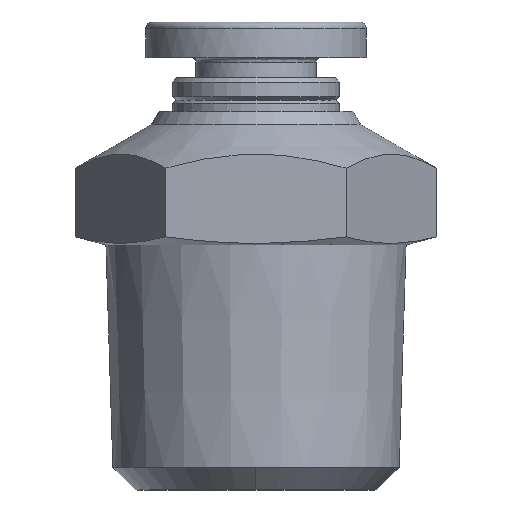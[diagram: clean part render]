
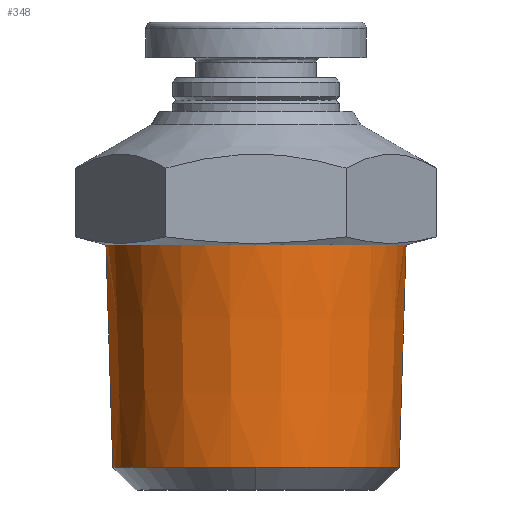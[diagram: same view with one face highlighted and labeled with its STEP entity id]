
A CAD part, front view. The second image highlights one B-rep face of the part: STEP entity #348.
In plain terms, the highlighted conical face has half-angle 1.79 degrees and reference radius 6.734 mm.
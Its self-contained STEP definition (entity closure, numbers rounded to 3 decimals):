
#70 = CONICAL_SURFACE ( 'NONE', #941, 6.734, 0.031 ) ;
#132 = LINE ( 'NONE', #1029, #1570 ) ;
#176 = EDGE_LOOP ( 'NONE', ( #1380, #1479, #1191, #247, #1359 ) ) ;
#247 = ORIENTED_EDGE ( 'NONE', *, *, #771, .T. ) ;
#290 = LINE ( 'NONE', #636, #1250 ) ;
#335 = VERTEX_POINT ( 'NONE', #1487 ) ;
#348 = ADVANCED_FACE ( '13', ( #976 ), #70, .T. ) ;
#377 = EDGE_CURVE ( 'NONE', #1061, #1427, #667, .T. ) ;
#446 = CARTESIAN_POINT ( 'NONE',  ( 0., -6.423, 1.023 ) ) ;
#504 = CARTESIAN_POINT ( 'NONE',  ( -6.734, 0., 11. ) ) ;
#579 = CARTESIAN_POINT ( 'NONE',  ( 6.423, 0., 1.023 ) ) ;
#632 = EDGE_CURVE ( 'NONE', #1427, #1157, #1355, .T. ) ;
#634 = EDGE_CURVE ( 'NONE', #335, #1306, #1346, .T. ) ;
#636 = CARTESIAN_POINT ( 'NONE',  ( -6.734, 0., 11. ) ) ;
#639 = DIRECTION ( 'NONE',  ( -0.997, 0.082, 0. ) ) ;
#646 = DIRECTION ( 'NONE',  ( 0., 0., 1. ) ) ;
#650 = CARTESIAN_POINT ( 'NONE',  ( 0., 0., 1.023 ) ) ;
#656 = DIRECTION ( 'NONE',  ( -0.031, 0., 1. ) ) ;
#667 = CIRCLE ( 'NONE', #1017, 6.423 ) ;
#679 = AXIS2_PLACEMENT_3D ( 'NONE', #1452, #1449, #1445 ) ;
#691 = AXIS2_PLACEMENT_3D ( 'NONE', #1468, #1466, #1461 ) ;
#712 = CARTESIAN_POINT ( 'NONE',  ( -6.423, 0., 1.023 ) ) ;
#771 = EDGE_CURVE ( 'NONE', #1157, #335, #132, .T. ) ;
#941 = AXIS2_PLACEMENT_3D ( 'NONE', #973, #952, #1365 ) ;
#952 = DIRECTION ( 'NONE',  ( 0., 0., 1. ) ) ;
#973 = CARTESIAN_POINT ( 'NONE',  ( 0., 0., 11. ) ) ;
#976 = FACE_OUTER_BOUND ( 'NONE', #176, .T. ) ;
#1017 = AXIS2_PLACEMENT_3D ( 'NONE', #650, #646, #639 ) ;
#1027 = DIRECTION ( 'NONE',  ( 0.031, 0., 1. ) ) ;
#1029 = CARTESIAN_POINT ( 'NONE',  ( 6.734, 0., 11. ) ) ;
#1061 = VERTEX_POINT ( 'NONE', #712 ) ;
#1115 = EDGE_CURVE ( 'NONE', #1061, #1306, #290, .T. ) ;
#1157 = VERTEX_POINT ( 'NONE', #579 ) ;
#1191 = ORIENTED_EDGE ( 'NONE', *, *, #632, .T. ) ;
#1250 = VECTOR ( 'NONE', #656, 1000. ) ;
#1306 = VERTEX_POINT ( 'NONE', #504 ) ;
#1346 = CIRCLE ( 'NONE', #679, 6.734 ) ;
#1355 = CIRCLE ( 'NONE', #691, 6.423 ) ;
#1359 = ORIENTED_EDGE ( 'NONE', *, *, #634, .T. ) ;
#1365 = DIRECTION ( 'NONE',  ( 1., 0., 0. ) ) ;
#1380 = ORIENTED_EDGE ( 'NONE', *, *, #1115, .F. ) ;
#1427 = VERTEX_POINT ( 'NONE', #446 ) ;
#1445 = DIRECTION ( 'NONE',  ( -0.997, 0.082, 0. ) ) ;
#1449 = DIRECTION ( 'NONE',  ( 0., 0., -1. ) ) ;
#1452 = CARTESIAN_POINT ( 'NONE',  ( 0., 0., 11. ) ) ;
#1461 = DIRECTION ( 'NONE',  ( -0.997, 0.082, 0. ) ) ;
#1466 = DIRECTION ( 'NONE',  ( 0., 0., 1. ) ) ;
#1468 = CARTESIAN_POINT ( 'NONE',  ( 0., 0., 1.023 ) ) ;
#1479 = ORIENTED_EDGE ( 'NONE', *, *, #377, .T. ) ;
#1487 = CARTESIAN_POINT ( 'NONE',  ( 6.734, 0., 11. ) ) ;
#1570 = VECTOR ( 'NONE', #1027, 1000. ) ;
